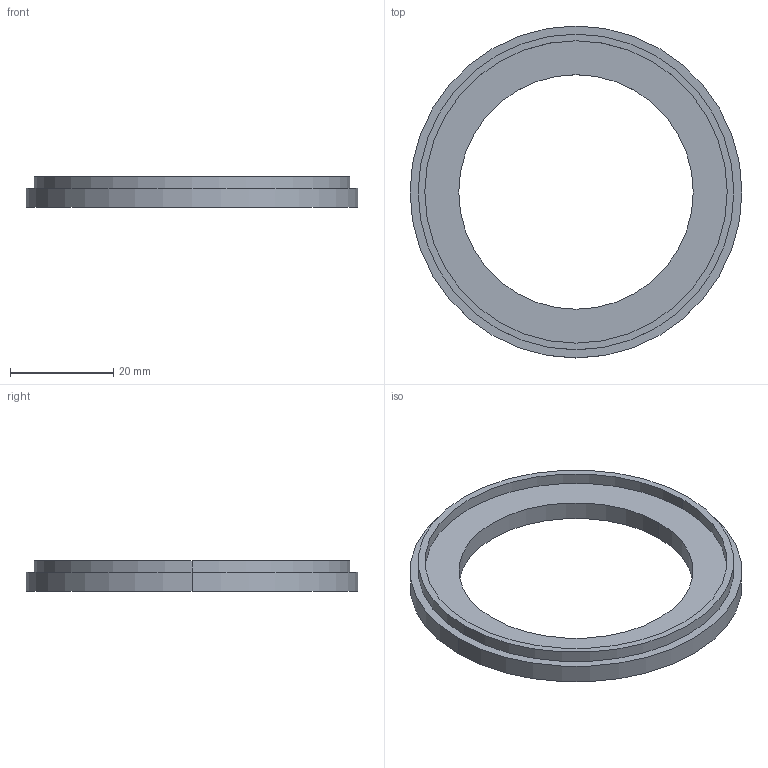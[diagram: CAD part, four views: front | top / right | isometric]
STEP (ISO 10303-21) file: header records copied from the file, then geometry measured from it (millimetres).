
FILE_DESCRIPTION (( 'STEP AP214' ), '1' );
FILE_NAME ('SD62-46.STEP', '2025-06-09T19:03:35', ( '' ), ( '' ), 'SwSTEP 2.0', 'SolidWorks 2025', '' );
FILE_SCHEMA (( 'AUTOMOTIVE_DESIGN' ));
Length unit declared in the file: millimetre
Products named in the file (1): SD62-46
Bounding box: 64.36 x 64.36 x 5.93 mm (x, y, z)
Volume: 6570.4 mm3; surface area: 5375 mm2
Topology: 1 solids, 1 shells, 12 faces, 24 edges, 16 vertices
Faces by surface type: cylinder 8, plane 4
Entity records: 351 total; most frequent: DIRECTION 66, CARTESIAN_POINT 53, ORIENTED_EDGE 48, AXIS2_PLACEMENT_3D 29, EDGE_CURVE 24, VERTEX_POINT 16, EDGE_LOOP 16, CIRCLE 16
